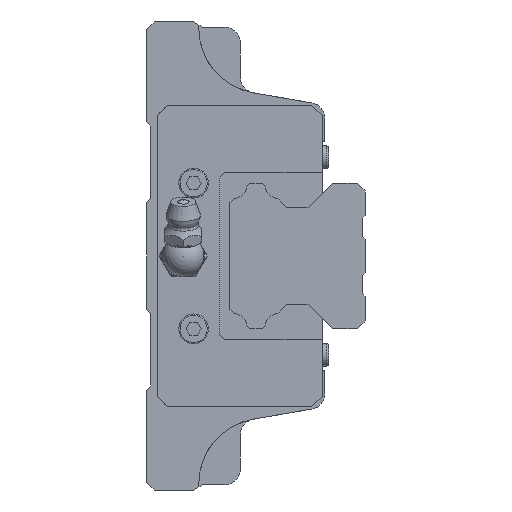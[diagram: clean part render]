
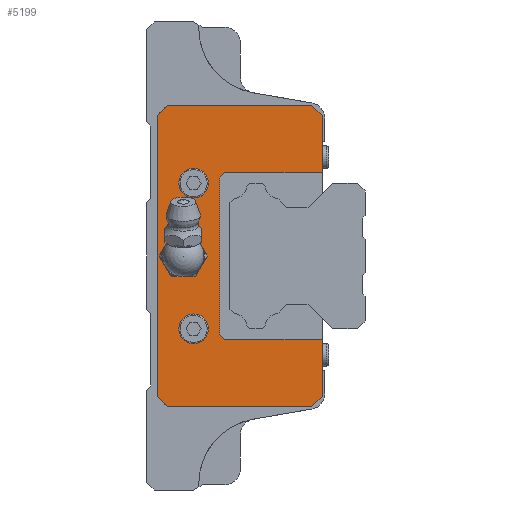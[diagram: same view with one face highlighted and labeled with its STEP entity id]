
A CAD part, left-side view. The second image highlights one B-rep face of the part: STEP entity #5199.
In plain terms, the highlighted planar face has unit normal (-1, 0, 0).
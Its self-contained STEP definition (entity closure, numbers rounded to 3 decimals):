
#239=CIRCLE('',#5641,3.);
#240=CIRCLE('',#5642,2.85);
#241=CIRCLE('',#5643,2.85);
#394=LINE('',#7603,#934);
#401=LINE('',#7617,#941);
#429=LINE('',#7675,#969);
#444=LINE('',#7706,#984);
#472=LINE('',#7759,#1012);
#490=LINE('',#7805,#1030);
#512=LINE('',#7850,#1052);
#691=LINE('',#8395,#1231);
#692=LINE('',#8397,#1232);
#700=LINE('',#8425,#1240);
#701=LINE('',#8428,#1241);
#702=LINE('',#8429,#1242);
#703=LINE('',#8431,#1243);
#704=LINE('',#8433,#1244);
#934=VECTOR('',#6156,1000.);
#941=VECTOR('',#6167,1000.);
#969=VECTOR('',#6207,1000.);
#984=VECTOR('',#6226,1000.);
#1012=VECTOR('',#6270,1000.);
#1030=VECTOR('',#6304,1000.);
#1052=VECTOR('',#6332,1000.);
#1231=VECTOR('',#6759,1000.);
#1232=VECTOR('',#6762,1000.);
#1240=VECTOR('',#6790,1000.);
#1241=VECTOR('',#6791,1000.);
#1242=VECTOR('',#6792,1000.);
#1243=VECTOR('',#6793,1000.);
#1244=VECTOR('',#6794,1000.);
#2330=ORIENTED_EDGE('',*,*,#3373,.T.);
#2331=ORIENTED_EDGE('',*,*,#3374,.F.);
#2332=ORIENTED_EDGE('',*,*,#3375,.F.);
#2333=ORIENTED_EDGE('',*,*,#3376,.T.);
#2334=ORIENTED_EDGE('',*,*,#3377,.T.);
#2335=ORIENTED_EDGE('',*,*,#3118,.F.);
#2336=ORIENTED_EDGE('',*,*,#3361,.T.);
#2337=ORIENTED_EDGE('',*,*,#3001,.F.);
#2338=ORIENTED_EDGE('',*,*,#2994,.F.);
#2339=ORIENTED_EDGE('',*,*,#3072,.F.);
#2340=ORIENTED_EDGE('',*,*,#3029,.F.);
#2341=ORIENTED_EDGE('',*,*,#3044,.F.);
#2342=ORIENTED_EDGE('',*,*,#3362,.T.);
#2343=ORIENTED_EDGE('',*,*,#3094,.F.);
#2344=ORIENTED_EDGE('',*,*,#3378,.T.);
#2345=ORIENTED_EDGE('',*,*,#3379,.T.);
#2346=ORIENTED_EDGE('',*,*,#3380,.T.);
#2994=EDGE_CURVE('',#3680,#3681,#394,.T.);
#3001=EDGE_CURVE('',#3681,#3686,#401,.T.);
#3029=EDGE_CURVE('',#3709,#3710,#429,.T.);
#3044=EDGE_CURVE('',#3723,#3709,#444,.T.);
#3072=EDGE_CURVE('',#3710,#3680,#472,.T.);
#3094=EDGE_CURVE('',#3760,#3761,#490,.T.);
#3118=EDGE_CURVE('',#3780,#3781,#512,.T.);
#3361=EDGE_CURVE('',#3780,#3686,#691,.T.);
#3362=EDGE_CURVE('',#3723,#3761,#692,.T.);
#3373=EDGE_CURVE('',#3958,#3958,#239,.T.);
#3374=EDGE_CURVE('',#3959,#3959,#240,.F.);
#3375=EDGE_CURVE('',#3960,#3960,#241,.F.);
#3376=EDGE_CURVE('',#3961,#3962,#700,.T.);
#3377=EDGE_CURVE('',#3962,#3781,#701,.T.);
#3378=EDGE_CURVE('',#3760,#3963,#702,.T.);
#3379=EDGE_CURVE('',#3963,#3964,#703,.T.);
#3380=EDGE_CURVE('',#3964,#3961,#704,.T.);
#3680=VERTEX_POINT('',#7602);
#3681=VERTEX_POINT('',#7604);
#3686=VERTEX_POINT('',#7618);
#3709=VERTEX_POINT('',#7674);
#3710=VERTEX_POINT('',#7676);
#3723=VERTEX_POINT('',#7705);
#3760=VERTEX_POINT('',#7804);
#3761=VERTEX_POINT('',#7806);
#3780=VERTEX_POINT('',#7849);
#3781=VERTEX_POINT('',#7851);
#3958=VERTEX_POINT('',#8420);
#3959=VERTEX_POINT('',#8422);
#3960=VERTEX_POINT('',#8424);
#3961=VERTEX_POINT('',#8426);
#3962=VERTEX_POINT('',#8427);
#3963=VERTEX_POINT('',#8430);
#3964=VERTEX_POINT('',#8432);
#4294=EDGE_LOOP('',(#2330));
#4295=EDGE_LOOP('',(#2331));
#4296=EDGE_LOOP('',(#2332));
#4297=EDGE_LOOP('',(#2333,#2334,#2335,#2336,#2337,#2338,#2339,#2340,#2341,
#2342,#2343,#2344,#2345,#2346));
#4657=FACE_BOUND('',#4294,.T.);
#4658=FACE_BOUND('',#4295,.T.);
#4659=FACE_BOUND('',#4296,.T.);
#4660=FACE_BOUND('',#4297,.T.);
#4951=PLANE('',#5640);
#5199=ADVANCED_FACE('',(#4657,#4658,#4659,#4660),#4951,.F.);
#5640=AXIS2_PLACEMENT_3D('',#8418,#6782,#6783);
#5641=AXIS2_PLACEMENT_3D('',#8419,#6784,#6785);
#5642=AXIS2_PLACEMENT_3D('',#8421,#6786,#6787);
#5643=AXIS2_PLACEMENT_3D('',#8423,#6788,#6789);
#6156=DIRECTION('',(0.,-0.707,0.707));
#6167=DIRECTION('',(0.,-1.,0.));
#6207=DIRECTION('',(0.,0.707,0.707));
#6226=DIRECTION('',(0.,1.,0.));
#6270=DIRECTION('',(0.,0.,1.));
#6304=DIRECTION('',(0.,0.,-1.));
#6332=DIRECTION('',(0.,0.,-1.));
#6759=DIRECTION('',(0.,0.707,0.707));
#6762=DIRECTION('',(0.,-0.707,0.707));
#6782=DIRECTION('',(1.,0.,0.));
#6783=DIRECTION('',(0.,0.,-1.));
#6784=DIRECTION('',(1.,0.,0.));
#6785=DIRECTION('',(0.,0.,-1.));
#6786=DIRECTION('',(1.,0.,0.));
#6787=DIRECTION('',(0.,0.,-1.));
#6788=DIRECTION('',(1.,0.,0.));
#6789=DIRECTION('',(0.,0.,-1.));
#6790=DIRECTION('',(0.,-0.707,0.707));
#6791=DIRECTION('',(0.,-1.,0.));
#6792=DIRECTION('',(0.,1.,0.));
#6793=DIRECTION('',(0.,0.707,0.707));
#6794=DIRECTION('',(0.,0.,1.));
#7602=CARTESIAN_POINT('',(-58.3,33.,27.));
#7603=CARTESIAN_POINT('',(-58.3,33.,27.));
#7604=CARTESIAN_POINT('',(-58.3,31.,29.));
#7617=CARTESIAN_POINT('',(-58.3,35.,29.));
#7618=CARTESIAN_POINT('',(-58.3,3.283,29.));
#7674=CARTESIAN_POINT('',(-58.3,31.,-29.));
#7675=CARTESIAN_POINT('',(-58.3,31.,-29.));
#7676=CARTESIAN_POINT('',(-58.3,33.,-27.));
#7705=CARTESIAN_POINT('',(-58.3,3.283,-29.));
#7706=CARTESIAN_POINT('',(-58.3,0.,-29.));
#7759=CARTESIAN_POINT('',(-58.3,33.,-27.));
#7804=CARTESIAN_POINT('',(-58.3,1.283,-16.));
#7805=CARTESIAN_POINT('',(-58.3,1.283,22.));
#7806=CARTESIAN_POINT('',(-58.3,1.283,-27.));
#7849=CARTESIAN_POINT('',(-58.3,1.283,27.));
#7850=CARTESIAN_POINT('',(-58.3,1.283,22.));
#7851=CARTESIAN_POINT('',(-58.3,1.283,16.));
#8395=CARTESIAN_POINT('',(-58.3,3.283,29.));
#8397=CARTESIAN_POINT('',(-58.3,1.283,-27.));
#8418=CARTESIAN_POINT('',(-58.3,0.,0.));
#8419=CARTESIAN_POINT('',(-58.3,28.,0.));
#8420=CARTESIAN_POINT('',(-58.3,28.,-3.));
#8421=CARTESIAN_POINT('',(-58.3,26.,14.));
#8422=CARTESIAN_POINT('',(-58.3,26.,11.15));
#8423=CARTESIAN_POINT('',(-58.3,26.,-14.));
#8424=CARTESIAN_POINT('',(-58.3,26.,-16.85));
#8425=CARTESIAN_POINT('',(-58.3,21.,15.));
#8426=CARTESIAN_POINT('',(-58.3,21.,15.));
#8427=CARTESIAN_POINT('',(-58.3,20.,16.));
#8428=CARTESIAN_POINT('',(-58.3,20.,16.));
#8429=CARTESIAN_POINT('',(-58.3,1.283,-16.));
#8430=CARTESIAN_POINT('',(-58.3,20.,-16.));
#8431=CARTESIAN_POINT('',(-58.3,20.,-16.));
#8432=CARTESIAN_POINT('',(-58.3,21.,-15.));
#8433=CARTESIAN_POINT('',(-58.3,21.,-15.));
